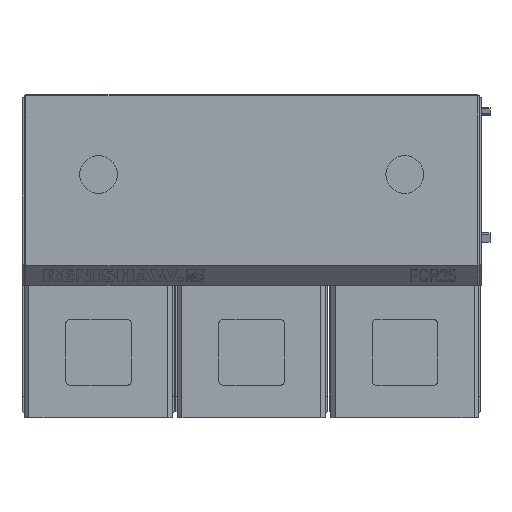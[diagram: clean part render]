
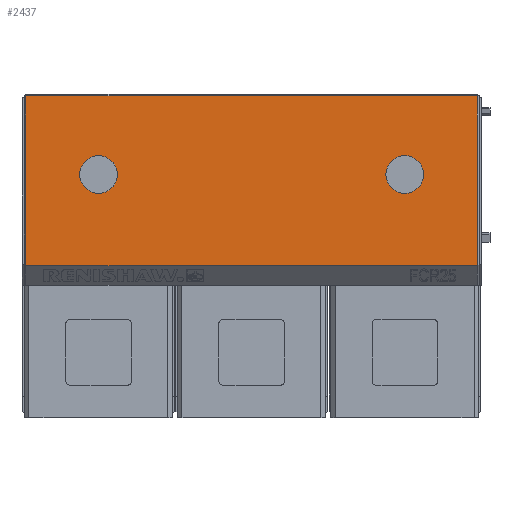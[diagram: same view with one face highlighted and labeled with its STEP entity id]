
A CAD part, top view. The second image highlights one B-rep face of the part: STEP entity #2437.
In plain terms, the highlighted planar face has unit normal (0, 0, 1).
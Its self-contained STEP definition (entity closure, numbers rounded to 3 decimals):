
#1933=FACE_BOUND('',#3607,.T.);
#1934=FACE_BOUND('',#3608,.T.);
#1935=FACE_BOUND('',#3609,.T.);
#2047=CIRCLE('',#10510,4.35);
#2048=CIRCLE('',#10512,4.35);
#2437=ADVANCED_FACE('',(#1933,#1934,#1935),#2790,.T.);
#2790=PLANE('',#10518);
#3607=EDGE_LOOP('',(#5962));
#3608=EDGE_LOOP('',(#5963));
#3609=EDGE_LOOP('',(#5964,#5965,#5966,#5967));
#5962=ORIENTED_EDGE('',*,*,#8006,.F.);
#5963=ORIENTED_EDGE('',*,*,#8007,.F.);
#5964=ORIENTED_EDGE('',*,*,#8008,.T.);
#5965=ORIENTED_EDGE('',*,*,#8010,.T.);
#5966=ORIENTED_EDGE('',*,*,#8012,.T.);
#5967=ORIENTED_EDGE('',*,*,#8013,.T.);
#6823=VERTEX_POINT('',#15607);
#6830=VERTEX_POINT('',#15631);
#6831=VERTEX_POINT('',#15635);
#6832=VERTEX_POINT('',#15638);
#6833=VERTEX_POINT('',#15643);
#6834=VERTEX_POINT('',#15647);
#8006=EDGE_CURVE('',#6831,#6831,#2047,.T.);
#8007=EDGE_CURVE('',#6832,#6832,#2048,.T.);
#8008=EDGE_CURVE('',#6830,#6823,#9001,.T.);
#8010=EDGE_CURVE('',#6823,#6833,#9003,.T.);
#8012=EDGE_CURVE('',#6833,#6834,#9005,.T.);
#8013=EDGE_CURVE('',#6834,#6830,#9006,.T.);
#9001=LINE('',#15640,#9994);
#9003=LINE('',#15644,#9996);
#9005=LINE('',#15648,#9998);
#9006=LINE('',#15650,#9999);
#9994=VECTOR('',#12534,1.);
#9996=VECTOR('',#12538,1.);
#9998=VECTOR('',#12542,1.);
#9999=VECTOR('',#12545,1.);
#10510=AXIS2_PLACEMENT_3D('',#15634,#12526,#12527);
#10512=AXIS2_PLACEMENT_3D('',#15637,#12530,#12531);
#10518=AXIS2_PLACEMENT_3D('',#15652,#12548,#12549);
#12526=DIRECTION('',(0.,0.,1.));
#12527=DIRECTION('',(0.,-1.,0.));
#12530=DIRECTION('',(0.,0.,1.));
#12531=DIRECTION('',(0.,-1.,0.));
#12534=DIRECTION('',(1.,0.,0.));
#12538=DIRECTION('',(0.,1.,0.));
#12542=DIRECTION('',(-1.,0.,0.));
#12545=DIRECTION('',(0.,-1.,0.));
#12548=DIRECTION('',(0.,0.,1.));
#12549=DIRECTION('',(0.,-1.,0.));
#15607=CARTESIAN_POINT('',(87.225,21.75,18.21));
#15631=CARTESIAN_POINT('',(-16.725,21.75,18.21));
#15634=CARTESIAN_POINT('',(70.5,42.75,18.21));
#15635=CARTESIAN_POINT('',(70.5,38.4,18.21));
#15637=CARTESIAN_POINT('',(0.,42.75,18.21));
#15638=CARTESIAN_POINT('',(0.,38.4,18.21));
#15640=CARTESIAN_POINT('',(35.25,21.75,18.21));
#15643=CARTESIAN_POINT('',(87.225,60.85,18.21));
#15644=CARTESIAN_POINT('',(87.225,60.85,18.21));
#15647=CARTESIAN_POINT('',(-16.725,60.85,18.21));
#15648=CARTESIAN_POINT('',(35.25,60.85,18.21));
#15650=CARTESIAN_POINT('',(-16.725,21.75,18.21));
#15652=CARTESIAN_POINT('',(35.25,39.25,18.21));
